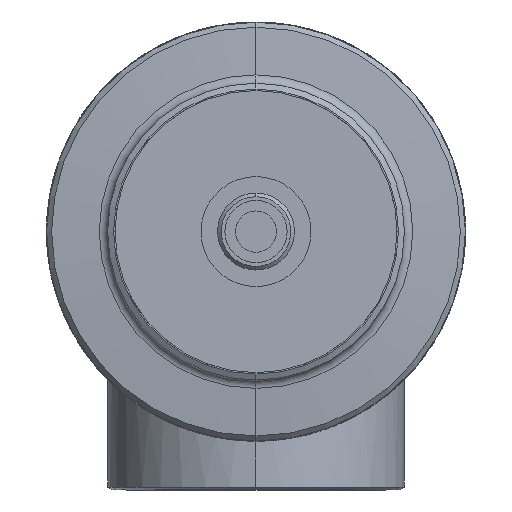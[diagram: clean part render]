
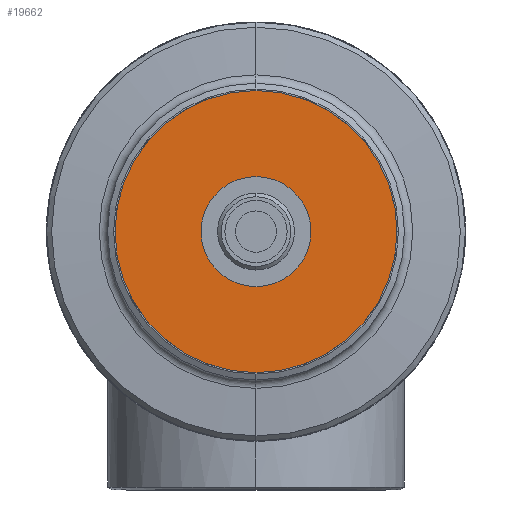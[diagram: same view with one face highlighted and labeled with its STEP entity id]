
A CAD part, front view. The second image highlights one B-rep face of the part: STEP entity #19662.
In plain terms, the highlighted planar face has unit normal (0, -1, 0).
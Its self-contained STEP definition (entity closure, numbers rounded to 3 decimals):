
#16528 = CIRCLE ( 'NONE', #16529, 60. ) ;
#16529 = AXIS2_PLACEMENT_3D ( 'NONE', #16530, #16531, #16532 ) ;
#16530 = CARTESIAN_POINT ( 'NONE',  ( 0., -58., 0. ) ) ;
#16531 = DIRECTION ( 'NONE',  ( 0., -1., 0. ) ) ;
#16532 = DIRECTION ( 'NONE',  ( 0., 0., -1. ) ) ;
#16717 = ORIENTED_EDGE ( 'NONE', *, *, #12466, .T. ) ;
#394 = CARTESIAN_POINT ( 'NONE',  ( 0., -58., 169. ) ) ;
#607 = CARTESIAN_POINT ( 'NONE',  ( 0., -58., -169. ) ) ;
#785 = CIRCLE ( 'NONE', #786, 169. ) ;
#786 = AXIS2_PLACEMENT_3D ( 'NONE', #787, #788, #793 ) ;
#787 = CARTESIAN_POINT ( 'NONE',  ( 0., -58., 0. ) ) ;
#788 = DIRECTION ( 'NONE',  ( 0., -1., 0. ) ) ;
#793 = DIRECTION ( 'NONE',  ( 0., 0., -1. ) ) ;
#17240 = ORIENTED_EDGE ( 'NONE', *, *, #21093, .T. ) ;
#17766 = EDGE_LOOP ( 'NONE', ( #17240, #16717 ) ) ;
#18007 = ORIENTED_EDGE ( 'NONE', *, *, #10294, .F. ) ;
#18213 = FACE_BOUND ( 'NONE', #19415, .T. ) ;
#18214 = FACE_OUTER_BOUND ( 'NONE', #17766, .T. ) ;
#18215 = PLANE ( 'NONE',  #18216 ) ;
#18216 = AXIS2_PLACEMENT_3D ( 'NONE', #18217, #18218, #18219 ) ;
#18217 = CARTESIAN_POINT ( 'NONE',  ( 0., -58., 0. ) ) ;
#18218 = DIRECTION ( 'NONE',  ( 0., -1., 0. ) ) ;
#18219 = DIRECTION ( 'NONE',  ( 0., 0., -1. ) ) ;
#18530 = EDGE_CURVE ( 'NONE', #9877, #11624, #16528, .T. ) ;
#18900 = ORIENTED_EDGE ( 'NONE', *, *, #18530, .F. ) ;
#19415 = EDGE_LOOP ( 'NONE', ( #18900, #18007 ) ) ;
#19496 = CARTESIAN_POINT ( 'NONE',  ( 0., -58., -60. ) ) ;
#19662 = ADVANCED_FACE ( 'NONE', ( #18213, #18214 ), #18215, .T. ) ;
#19722 = CIRCLE ( 'NONE', #19723, 60. ) ;
#19723 = AXIS2_PLACEMENT_3D ( 'NONE', #19724, #19725, #19726 ) ;
#19724 = CARTESIAN_POINT ( 'NONE',  ( 0., -58., 0. ) ) ;
#19725 = DIRECTION ( 'NONE',  ( 0., -1., 0. ) ) ;
#19726 = DIRECTION ( 'NONE',  ( 0., 0., -1. ) ) ;
#21093 = EDGE_CURVE ( 'NONE', #12026, #12250, #23402, .T. ) ;
#23402 = CIRCLE ( 'NONE', #23403, 169. ) ;
#23403 = AXIS2_PLACEMENT_3D ( 'NONE', #23404, #23405, #23406 ) ;
#23404 = CARTESIAN_POINT ( 'NONE',  ( 0., -58., 0. ) ) ;
#23405 = DIRECTION ( 'NONE',  ( 0., -1., 0. ) ) ;
#23406 = DIRECTION ( 'NONE',  ( 0., 0., -1. ) ) ;
#23481 = CARTESIAN_POINT ( 'NONE',  ( 0., -58., 60. ) ) ;
#9877 = VERTEX_POINT ( 'NONE', #19496 ) ;
#10294 = EDGE_CURVE ( 'NONE', #11624, #9877, #19722, .T. ) ;
#11624 = VERTEX_POINT ( 'NONE', #23481 ) ;
#12026 = VERTEX_POINT ( 'NONE', #394 ) ;
#12250 = VERTEX_POINT ( 'NONE', #607 ) ;
#12466 = EDGE_CURVE ( 'NONE', #12250, #12026, #785, .T. ) ;
